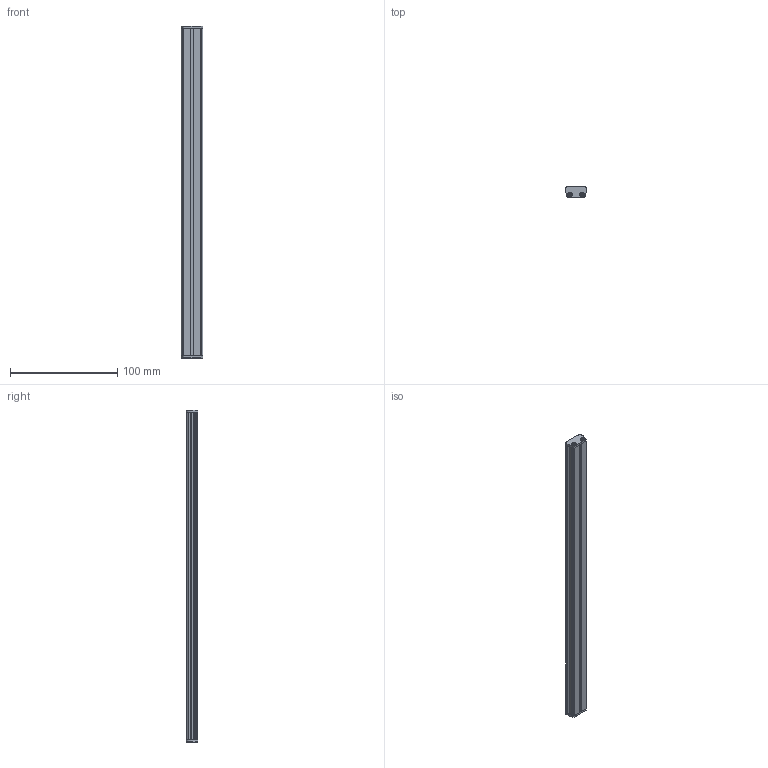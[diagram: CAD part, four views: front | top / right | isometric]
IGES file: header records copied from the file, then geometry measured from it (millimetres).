
Start section: SolidWorks IGES file using analytic representation for surfaces
Global section: file name: C:\Users\JoãoSantos\Desktop\02_3D.2D\01_2020\02_Linear\13_Limit\02_Limit_Flat\Componentes\Limit\LIMIT_FLAT_310.IGS; native system: SolidWorks 2020; preprocessor: SolidWorks 2020; author: JoãoSantos; date: 201023.152738; units: millimetre
Bounding box: 20.25 x 10.45 x 310.1 mm (x, y, z)
Surface area: 43771.4 mm2 (no closed solid volume)
Topology: 0 solids, 0 shells, 274 faces, 2328 edges, 2320 vertices
Faces by surface type: bspline 146, revolution 128
